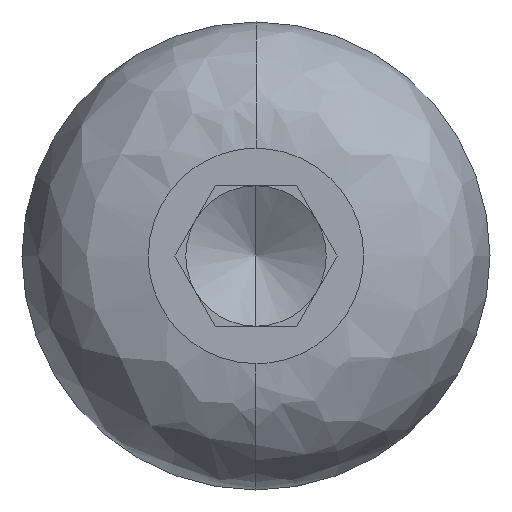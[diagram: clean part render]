
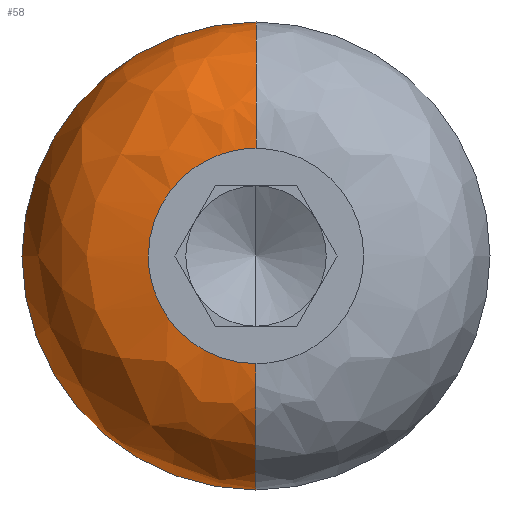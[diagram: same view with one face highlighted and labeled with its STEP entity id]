
A CAD part, left-side view. The second image highlights one B-rep face of the part: STEP entity #58.
In plain terms, the highlighted free-form (B-spline) face has degree [3, 3] with [4, 4] control points.
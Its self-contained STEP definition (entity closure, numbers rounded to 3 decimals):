
#38 = EDGE_CURVE ( 'NONE', #129, #481, #310, .T. ) ;
#57 = CARTESIAN_POINT ( 'NONE',  ( 2.7, 0., 5. ) ) ;
#58 = ADVANCED_FACE ( 'NONE', ( #333 ), #380, .T. ) ;
#76 = EDGE_CURVE ( 'NONE', #118, #208, #169, .T. ) ;
#118 = VERTEX_POINT ( 'NONE', #643 ) ;
#129 = VERTEX_POINT ( 'NONE', #619 ) ;
#142 = CARTESIAN_POINT ( 'NONE',  ( 0., 2.3, -1.347 ) ) ;
#169 =( BOUNDED_CURVE ( )  B_SPLINE_CURVE ( 3, ( #224, #267, #142, #243 ),
 .UNSPECIFIED., .F., .F. ) 
 B_SPLINE_CURVE_WITH_KNOTS ( ( 4, 4 ),
 ( 0., 1. ),
 .UNSPECIFIED. ) 
 CURVE ( )  GEOMETRIC_REPRESENTATION_ITEM ( )  RATIONAL_B_SPLINE_CURVE ( ( 1., 0.805, 0.805, 1. ) ) 
 REPRESENTATION_ITEM ( '' )  );
#188 = CARTESIAN_POINT ( 'NONE',  ( 0., 0., 2.3 ) ) ;
#190 = CARTESIAN_POINT ( 'NONE',  ( 0., 1.347, 2.3 ) ) ;
#192 = CARTESIAN_POINT ( 'NONE',  ( 0., 2.3, 1.347 ) ) ;
#194 = EDGE_CURVE ( 'NONE', #118, #640, #393, .T. ) ;
#198 = CARTESIAN_POINT ( 'NONE',  ( 0., 2.3, 0. ) ) ;
#208 = VERTEX_POINT ( 'NONE', #473 ) ;
#224 = CARTESIAN_POINT ( 'NONE',  ( 0., 0., -2.3 ) ) ;
#243 = CARTESIAN_POINT ( 'NONE',  ( 0., 2.3, 0. ) ) ;
#267 = CARTESIAN_POINT ( 'NONE',  ( 0., 1.347, -2.3 ) ) ;
#285 = EDGE_CURVE ( 'NONE', #640, #481, #579, .T. ) ;
#306 = DIRECTION ( 'NONE',  ( 0., 0., 1. ) ) ;
#307 = DIRECTION ( 'NONE',  ( 1., 0., 0. ) ) ;
#309 = CARTESIAN_POINT ( 'NONE',  ( 2.7, 0., 0. ) ) ;
#310 = CIRCLE ( 'NONE', #504, 2.7 ) ;
#333 = FACE_OUTER_BOUND ( 'NONE', #605, .T. ) ;
#361 = EDGE_CURVE ( 'NONE', #208, #129, #556, .T. ) ;
#371 = CARTESIAN_POINT ( 'NONE',  ( 0., 0., 3.882 ) ) ;
#380 =( BOUNDED_SURFACE ( )  B_SPLINE_SURFACE ( 3, 3, ( 
 ( #540, #511, #430, #470 ),
 ( #371, #457, #432, #450 ),
 ( #441, #440, #679, #438 ),
 ( #419, #396, #422, #416 ) ),
 .UNSPECIFIED., .F., .F., .T. ) 
 B_SPLINE_SURFACE_WITH_KNOTS ( ( 4, 4 ),
 ( 4, 4 ),
 ( 0., 1. ),
 ( 0., 1. ),
 .UNSPECIFIED. ) 
 GEOMETRIC_REPRESENTATION_ITEM ( )  RATIONAL_B_SPLINE_SURFACE ( (
 ( 1., 0.333, 0.333, 1.),
 ( 0.805, 0.268, 0.268, 0.805),
 ( 0.805, 0.268, 0.268, 0.805),
 ( 1., 0.333, 0.333, 1.) ) ) 
 REPRESENTATION_ITEM ( '' )  SURFACE ( )  );
#393 = CIRCLE ( 'NONE', #762, 2.7 ) ;
#396 = CARTESIAN_POINT ( 'NONE',  ( 2.7, 10., 5. ) ) ;
#416 = CARTESIAN_POINT ( 'NONE',  ( 2.7, 0., -5. ) ) ;
#419 = CARTESIAN_POINT ( 'NONE',  ( 2.7, 0., 5. ) ) ;
#422 = CARTESIAN_POINT ( 'NONE',  ( 2.7, 10., -5. ) ) ;
#430 = CARTESIAN_POINT ( 'NONE',  ( 0., 4.6, -2.3 ) ) ;
#432 = CARTESIAN_POINT ( 'NONE',  ( 0., 7.763, -3.882 ) ) ;
#433 = AXIS2_PLACEMENT_3D ( 'NONE', #309, #307, #306 ) ;
#438 = CARTESIAN_POINT ( 'NONE',  ( 1.118, 0., -5. ) ) ;
#440 = CARTESIAN_POINT ( 'NONE',  ( 1.118, 10., 5. ) ) ;
#441 = CARTESIAN_POINT ( 'NONE',  ( 1.118, 0., 5. ) ) ;
#450 = CARTESIAN_POINT ( 'NONE',  ( 0., 0., -3.882 ) ) ;
#457 = CARTESIAN_POINT ( 'NONE',  ( 0., 7.763, 3.882 ) ) ;
#470 = CARTESIAN_POINT ( 'NONE',  ( 0., 0., -2.3 ) ) ;
#473 = CARTESIAN_POINT ( 'NONE',  ( 0., 2.3, 0. ) ) ;
#481 = VERTEX_POINT ( 'NONE', #57 ) ;
#482 = ORIENTED_EDGE ( 'NONE', *, *, #361, .T. ) ;
#486 = DIRECTION ( 'NONE',  ( 0., 1., 0. ) ) ;
#495 = DIRECTION ( 'NONE',  ( 0., 0., -1. ) ) ;
#500 = DIRECTION ( 'NONE',  ( 0., -1., 0. ) ) ;
#501 = CARTESIAN_POINT ( 'NONE',  ( 2.7, 0., -2.3 ) ) ;
#504 = AXIS2_PLACEMENT_3D ( 'NONE', #527, #486, #515 ) ;
#511 = CARTESIAN_POINT ( 'NONE',  ( 0., 4.6, 2.3 ) ) ;
#515 = DIRECTION ( 'NONE',  ( 0., 0., 1. ) ) ;
#527 = CARTESIAN_POINT ( 'NONE',  ( 2.7, 0., 2.3 ) ) ;
#540 = CARTESIAN_POINT ( 'NONE',  ( 0., 0., 2.3 ) ) ;
#556 =( BOUNDED_CURVE ( )  B_SPLINE_CURVE ( 3, ( #198, #192, #190, #188 ),
 .UNSPECIFIED., .F., .T. ) 
 B_SPLINE_CURVE_WITH_KNOTS ( ( 4, 4 ),
 ( 0., 1. ),
 .UNSPECIFIED. ) 
 CURVE ( )  GEOMETRIC_REPRESENTATION_ITEM ( )  RATIONAL_B_SPLINE_CURVE ( ( 1., 0.805, 0.805, 1. ) ) 
 REPRESENTATION_ITEM ( '' )  );
#579 = CIRCLE ( 'NONE', #433, 5. ) ;
#605 = EDGE_LOOP ( 'NONE', ( #701, #617, #482, #721, #784 ) ) ;
#617 = ORIENTED_EDGE ( 'NONE', *, *, #76, .T. ) ;
#619 = CARTESIAN_POINT ( 'NONE',  ( 0., 0., 2.3 ) ) ;
#637 = CARTESIAN_POINT ( 'NONE',  ( 2.7, 0., -5. ) ) ;
#640 = VERTEX_POINT ( 'NONE', #637 ) ;
#643 = CARTESIAN_POINT ( 'NONE',  ( 0., 0., -2.3 ) ) ;
#679 = CARTESIAN_POINT ( 'NONE',  ( 1.118, 10., -5. ) ) ;
#701 = ORIENTED_EDGE ( 'NONE', *, *, #194, .F. ) ;
#721 = ORIENTED_EDGE ( 'NONE', *, *, #38, .T. ) ;
#762 = AXIS2_PLACEMENT_3D ( 'NONE', #501, #500, #495 ) ;
#784 = ORIENTED_EDGE ( 'NONE', *, *, #285, .F. ) ;
